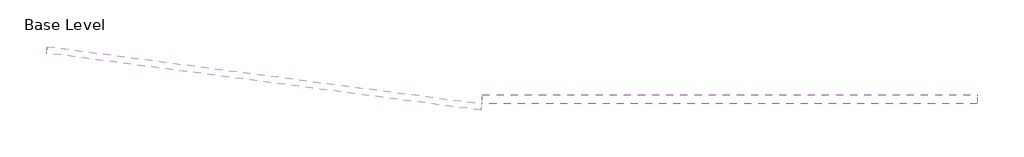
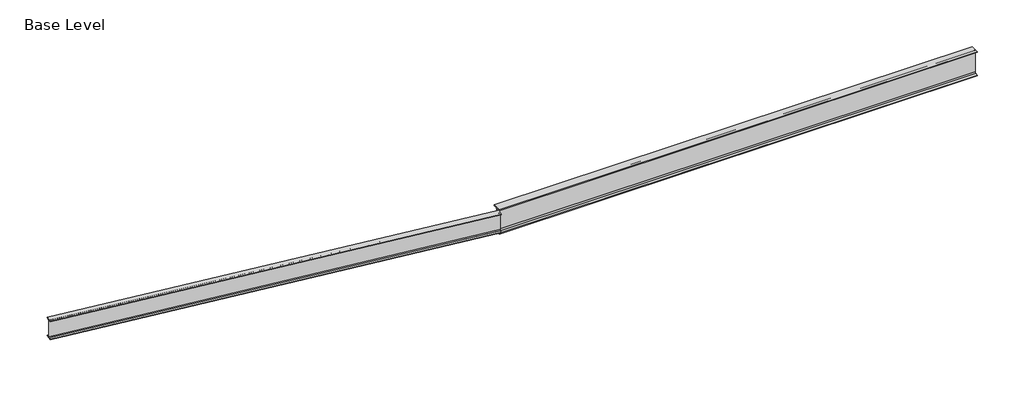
# One storey: 2 beams.
"""IFC4 building model written with IfcOpenShell, lengths in millimetres."""

from ifc_helpers import new_model, si_unit, origin, place, context, project, spatial, transform, mapped, element, save
from components import w_wide_flange_w12x19_e948c663, w_wide_flange_w16x31_38a080ee

model = new_model("IFC4")

# Units and contexts
model_context = context("Model", 3, world=origin())
ifc_project = project(units=[si_unit("LENGTHUNIT", "METRE", prefix="MILLI")], contexts=[model_context])

# Site, building, storey
site = spatial("IfcSite", under=ifc_project)
building = spatial("IfcBuilding", under=site)
storey = spatial("IfcBuildingStorey", under=building, Name="Base Level", Elevation=0.0)

# Beams
placement = place(None, origin())
w_wide_flange_w12x19_shape = w_wide_flange_w12x19_e948c663(model_context)
element("IfcBeam", 1, ObjectType="W-Wide Flange : W12X19", at=placement, inside=storey, context=model_context, shape_type="MappedRepresentation", body=[
    mapped(w_wide_flange_w12x19_shape, transform((34016.3553712, 16776.1197247, 4417.06), x_axis=(0.9914448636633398, -0.1305261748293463, 0.0), y_axis=(0.1305261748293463, 0.9914448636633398, 0.0), z_axis=(0.0, 0.0, 1.0))),
])
w_wide_flange_w16x31_shape = w_wide_flange_w16x31_38a080ee(model_context)
element("IfcBeam", 2, ObjectType="W-Wide Flange : W16X31", at=placement, inside=storey, context=model_context, shape_type="MappedRepresentation", body=[
    mapped(w_wide_flange_w16x31_shape, transform((41150.9186167, 16398.24, 4370.07), x_axis=(1.0, 0.0, 0.0), y_axis=(0.0, 1.0, 0.0), z_axis=(0.0, 0.0, 1.0))),
])

save(model, "model.ifc")
